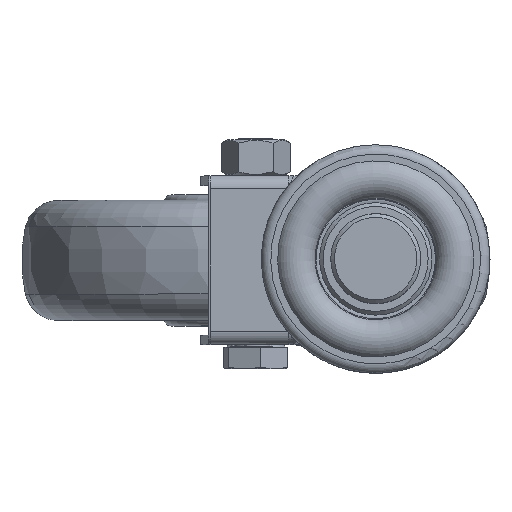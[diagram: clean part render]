
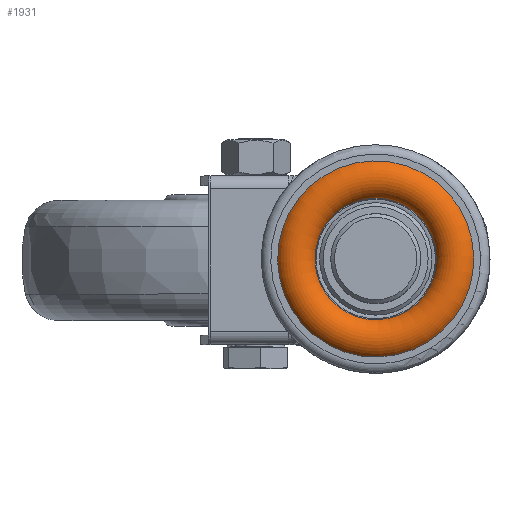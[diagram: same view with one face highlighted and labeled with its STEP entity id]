
A CAD part, top view. The second image highlights one B-rep face of the part: STEP entity #1931.
In plain terms, the highlighted toroidal (fillet/blend) face has major radius 21.5 mm and minor radius 5.6 mm.
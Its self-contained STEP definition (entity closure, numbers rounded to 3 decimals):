
#412=TOROIDAL_SURFACE('',#15631,21.5,5.6);
#1931=ADVANCED_FACE('',(#2659,#2660),#412,.T.);
#2659=FACE_BOUND('',#3640,.T.);
#2660=FACE_BOUND('',#3641,.T.);
#3640=EDGE_LOOP('',(#10417));
#3641=EDGE_LOOP('',(#10418));
#10417=ORIENTED_EDGE('',*,*,#13977,.T.);
#10418=ORIENTED_EDGE('',*,*,#13978,.F.);
#11868=VERTEX_POINT('',#31315);
#11869=VERTEX_POINT('',#31318);
#13977=EDGE_CURVE('',#11868,#11868,#14410,.T.);
#13978=EDGE_CURVE('',#11869,#11869,#14411,.T.);
#14410=CIRCLE('',#15628,16.19);
#14411=CIRCLE('',#15630,26.164);
#15628=AXIS2_PLACEMENT_3D('',#31314,#18928,#18929);
#15630=AXIS2_PLACEMENT_3D('',#31317,#18932,#18933);
#15631=AXIS2_PLACEMENT_3D('',#31319,#18934,#18935);
#18928=DIRECTION('',(0.,0.,-1.));
#18929=DIRECTION('',(0.929,0.37,0.));
#18932=DIRECTION('',(0.,0.,-1.));
#18933=DIRECTION('',(0.929,0.37,0.));
#18934=DIRECTION('',(0.,0.,-1.));
#18935=DIRECTION('',(-0.929,-0.37,0.));
#31314=CARTESIAN_POINT('',(0.,0.,-52.822));
#31315=CARTESIAN_POINT('',(15.039,5.997,-52.822));
#31317=CARTESIAN_POINT('',(0.,0.,-51.502));
#31318=CARTESIAN_POINT('',(24.303,9.692,-51.502));
#31319=CARTESIAN_POINT('',(0.,0.,-54.602));
